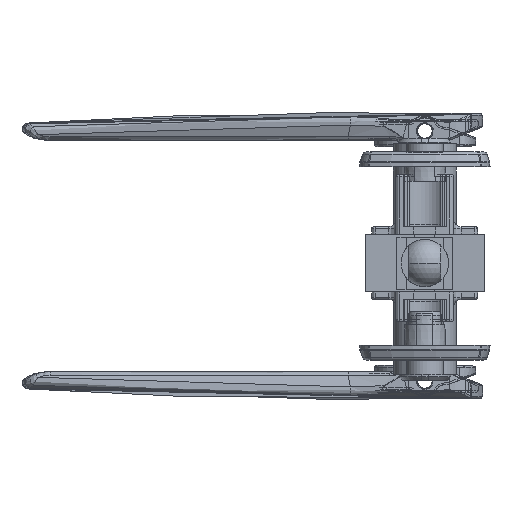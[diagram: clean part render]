
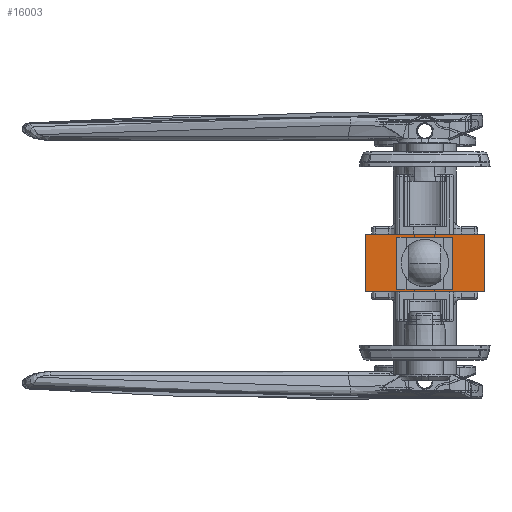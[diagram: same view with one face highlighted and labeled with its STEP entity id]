
A CAD part, front view. The second image highlights one B-rep face of the part: STEP entity #16003.
In plain terms, the highlighted planar face has unit normal (0, -1, 0).
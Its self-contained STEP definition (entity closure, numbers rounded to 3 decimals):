
#271 = CARTESIAN_POINT ( 'NONE',  ( -16., -199.25, -7.75 ) ) ;
#767 = CARTESIAN_POINT ( 'NONE',  ( 7., -199.25, -6.25 ) ) ;
#1562 = EDGE_CURVE ( 'NONE', #30128, #16542, #7991, .T. ) ;
#2533 = CARTESIAN_POINT ( 'NONE',  ( -7., -199.25, -6.25 ) ) ;
#2698 = VERTEX_POINT ( 'NONE', #26909 ) ;
#2819 = CARTESIAN_POINT ( 'NONE',  ( -7., -199.25, -6.25 ) ) ;
#3107 = VECTOR ( 'NONE', #26897, 1000. ) ;
#3205 = VECTOR ( 'NONE', #28326, 1000. ) ;
#3458 = VECTOR ( 'NONE', #28339, 1000. ) ;
#4641 = ORIENTED_EDGE ( 'NONE', *, *, #40696, .F. ) ;
#6148 = CARTESIAN_POINT ( 'NONE',  ( -16., -199.25, 7.75 ) ) ;
#6176 = VECTOR ( 'NONE', #33322, 1000. ) ;
#6862 = CARTESIAN_POINT ( 'NONE',  ( -7., -199.25, 6.25 ) ) ;
#6965 = DIRECTION ( 'NONE',  ( 0., 0., 1. ) ) ;
#7991 = LINE ( 'NONE', #271, #3107 ) ;
#7993 = VERTEX_POINT ( 'NONE', #2533 ) ;
#9510 = CARTESIAN_POINT ( 'NONE',  ( 16., -199.25, -7.75 ) ) ;
#10283 = LINE ( 'NONE', #37459, #6176 ) ;
#11274 = VERTEX_POINT ( 'NONE', #54336 ) ;
#11697 = DIRECTION ( 'NONE',  ( 0., 0., -1. ) ) ;
#14617 = EDGE_CURVE ( 'NONE', #2698, #30128, #55270, .T. ) ;
#14635 = ORIENTED_EDGE ( 'NONE', *, *, #31087, .F. ) ;
#16003 = ADVANCED_FACE ( 'NONE', ( #57550, #17025 ), #35023, .F. ) ;
#16542 = VERTEX_POINT ( 'NONE', #9510 ) ;
#17025 = FACE_OUTER_BOUND ( 'NONE', #19502, .T. ) ;
#17825 = VECTOR ( 'NONE', #27299, 1000. ) ;
#18852 = VERTEX_POINT ( 'NONE', #767 ) ;
#19502 = EDGE_LOOP ( 'NONE', ( #48071, #23729, #45665, #40911 ) ) ;
#23729 = ORIENTED_EDGE ( 'NONE', *, *, #49134, .F. ) ;
#26897 = DIRECTION ( 'NONE',  ( 1., 0., 0. ) ) ;
#26909 = CARTESIAN_POINT ( 'NONE',  ( -16., -199.25, 7.75 ) ) ;
#27299 = DIRECTION ( 'NONE',  ( 1., 0., 0. ) ) ;
#27763 = EDGE_CURVE ( 'NONE', #49741, #7993, #34166, .T. ) ;
#28054 = CARTESIAN_POINT ( 'NONE',  ( 7., -199.25, 6.25 ) ) ;
#28272 = ORIENTED_EDGE ( 'NONE', *, *, #27763, .F. ) ;
#28326 = DIRECTION ( 'NONE',  ( 0., 0., -1. ) ) ;
#28339 = DIRECTION ( 'NONE',  ( 0., 0., 1. ) ) ;
#29345 = DIRECTION ( 'NONE',  ( 1., 0., 0. ) ) ;
#30128 = VERTEX_POINT ( 'NONE', #34803 ) ;
#31087 = EDGE_CURVE ( 'NONE', #18852, #11274, #55858, .T. ) ;
#33322 = DIRECTION ( 'NONE',  ( -1., 0., 0. ) ) ;
#33729 = VECTOR ( 'NONE', #55615, 1000. ) ;
#34166 = LINE ( 'NONE', #2819, #57107 ) ;
#34551 = VERTEX_POINT ( 'NONE', #49392 ) ;
#34803 = CARTESIAN_POINT ( 'NONE',  ( -16., -199.25, -7.75 ) ) ;
#35023 = PLANE ( 'NONE',  #39207 ) ;
#36447 = EDGE_CURVE ( 'NONE', #2698, #34551, #41748, .T. ) ;
#37459 = CARTESIAN_POINT ( 'NONE',  ( 7., -199.25, 6.25 ) ) ;
#37537 = LINE ( 'NONE', #41677, #33729 ) ;
#39204 = EDGE_LOOP ( 'NONE', ( #28272, #43396, #14635, #4641 ) ) ;
#39207 = AXIS2_PLACEMENT_3D ( 'NONE', #52501, #39744, #6965 ) ;
#39744 = DIRECTION ( 'NONE',  ( 0., 1., 0. ) ) ;
#40696 = EDGE_CURVE ( 'NONE', #7993, #18852, #57469, .T. ) ;
#40911 = ORIENTED_EDGE ( 'NONE', *, *, #14617, .T. ) ;
#41677 = CARTESIAN_POINT ( 'NONE',  ( 16., -199.25, 7.75 ) ) ;
#41748 = LINE ( 'NONE', #54814, #17825 ) ;
#43396 = ORIENTED_EDGE ( 'NONE', *, *, #45628, .F. ) ;
#45503 = VECTOR ( 'NONE', #29345, 1000. ) ;
#45628 = EDGE_CURVE ( 'NONE', #11274, #49741, #10283, .T. ) ;
#45665 = ORIENTED_EDGE ( 'NONE', *, *, #36447, .F. ) ;
#48071 = ORIENTED_EDGE ( 'NONE', *, *, #1562, .T. ) ;
#49134 = EDGE_CURVE ( 'NONE', #34551, #16542, #37537, .T. ) ;
#49392 = CARTESIAN_POINT ( 'NONE',  ( 16., -199.25, 7.75 ) ) ;
#49741 = VERTEX_POINT ( 'NONE', #6862 ) ;
#52423 = CARTESIAN_POINT ( 'NONE',  ( -7., -199.25, -6.25 ) ) ;
#52501 = CARTESIAN_POINT ( 'NONE',  ( -16., -199.25, 7.75 ) ) ;
#54336 = CARTESIAN_POINT ( 'NONE',  ( 7., -199.25, 6.25 ) ) ;
#54814 = CARTESIAN_POINT ( 'NONE',  ( -16., -199.25, 7.75 ) ) ;
#55270 = LINE ( 'NONE', #6148, #3205 ) ;
#55615 = DIRECTION ( 'NONE',  ( 0., 0., -1. ) ) ;
#55858 = LINE ( 'NONE', #28054, #3458 ) ;
#57107 = VECTOR ( 'NONE', #11697, 1000. ) ;
#57469 = LINE ( 'NONE', #52423, #45503 ) ;
#57550 = FACE_BOUND ( 'NONE', #39204, .T. ) ;
